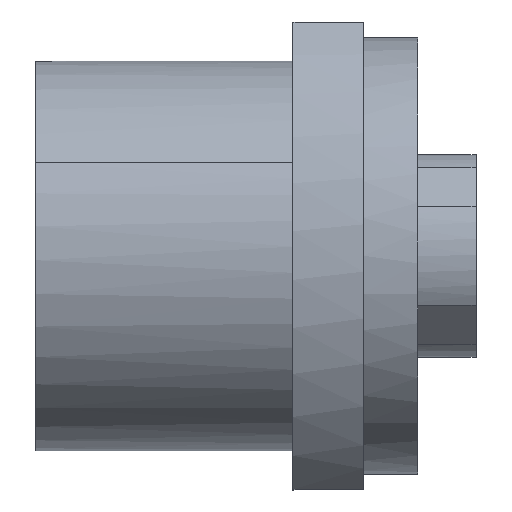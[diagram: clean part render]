
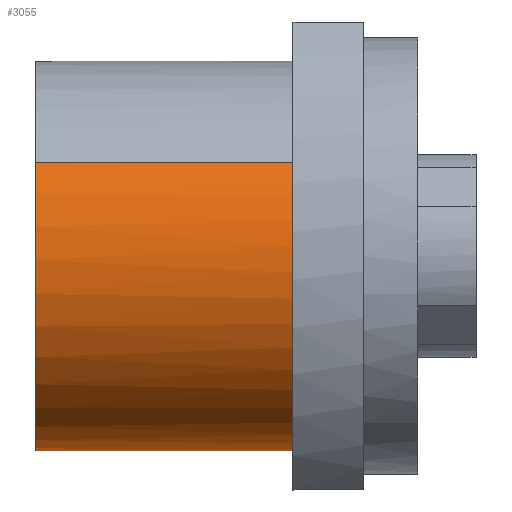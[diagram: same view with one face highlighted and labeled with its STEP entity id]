
A CAD part, top view. The second image highlights one B-rep face of the part: STEP entity #3055.
In plain terms, the highlighted cylindrical face has radius 50 mm (diameter 100 mm), a partial arc.
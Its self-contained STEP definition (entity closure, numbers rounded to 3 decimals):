
#1923=CARTESIAN_POINT('Vertex',(-18.,23.971,43.879)) ;
#1925=CARTESIAN_POINT('Vertex',(-18.,-23.971,-43.879)) ;
#1929=CARTESIAN_POINT('Control Point',(-18.,-23.971,-43.879)) ;
#1930=CARTESIAN_POINT('Control Point',(-18.,-28.227,-41.554)) ;
#1931=CARTESIAN_POINT('Control Point',(-18.,-32.201,-38.713)) ;
#1932=CARTESIAN_POINT('Control Point',(-18.,-35.81,-35.401)) ;
#1933=CARTESIAN_POINT('Control Point',(-18.,-42.153,-27.969)) ;
#1934=CARTESIAN_POINT('Control Point',(-18.,-46.536,-19.237)) ;
#1935=CARTESIAN_POINT('Control Point',(-18.,-48.184,-14.625)) ;
#1936=CARTESIAN_POINT('Control Point',(-18.,-50.331,-5.093)) ;
#1937=CARTESIAN_POINT('Control Point',(-18.,-50.137,4.675)) ;
#1938=CARTESIAN_POINT('Control Point',(-18.,-49.446,9.525)) ;
#1939=CARTESIAN_POINT('Control Point',(-18.,-46.901,18.958)) ;
#1940=CARTESIAN_POINT('Control Point',(-18.,-42.176,27.51)) ;
#1941=CARTESIAN_POINT('Control Point',(-18.,-39.304,31.477)) ;
#1942=CARTESIAN_POINT('Control Point',(-18.,-32.655,38.637)) ;
#1943=CARTESIAN_POINT('Control Point',(-18.,-24.488,43.999)) ;
#1944=CARTESIAN_POINT('Control Point',(-18.,-20.098,46.171)) ;
#1945=CARTESIAN_POINT('Control Point',(-18.,-10.878,49.405)) ;
#1946=CARTESIAN_POINT('Control Point',(-18.,-1.153,50.342)) ;
#1947=CARTESIAN_POINT('Control Point',(-18.,3.744,50.216)) ;
#1948=CARTESIAN_POINT('Control Point',(-18.,10.885,49.154)) ;
#1949=CARTESIAN_POINT('Control Point',(-18.,17.686,46.854)) ;
#1950=CARTESIAN_POINT('Control Point',(-18.,19.839,45.983)) ;
#1951=CARTESIAN_POINT('Control Point',(-18.,21.938,44.99)) ;
#1952=CARTESIAN_POINT('Control Point',(-18.,23.971,43.879)) ;
#3013=CARTESIAN_POINT('Line Origine',(-82.781,23.971,43.879)) ;
#3017=CARTESIAN_POINT('Vertex',(-84.,23.971,43.879)) ;
#3020=CARTESIAN_POINT('Line Origine',(-82.781,-23.971,-43.879)) ;
#3024=CARTESIAN_POINT('Vertex',(-84.,-23.971,-43.879)) ;
#3039=CARTESIAN_POINT('Axis2P3D Location',(-82.781,0.,0.)) ;
#3044=CARTESIAN_POINT('Axis2P3D Location',(-84.,0.,0.)) ;
#3014=DIRECTION('Vector Direction',(-1.,0.,0.)) ;
#3021=DIRECTION('Vector Direction',(-1.,0.,0.)) ;
#3040=DIRECTION('Axis2P3D Direction',(-1.,0.,0.)) ;
#3041=DIRECTION('Axis2P3D XDirection',(0.,-0.479,-0.878)) ;
#3045=DIRECTION('Axis2P3D Direction',(-1.,0.,0.)) ;
#3042=AXIS2_PLACEMENT_3D('Cylinder Axis2P3D',#3039,#3040,#3041) ;
#3046=AXIS2_PLACEMENT_3D('Circle Axis2P3D',#3044,#3045,$) ;
#3050=ORIENTED_EDGE('',*,*,#3026,.F.) ;
#3051=ORIENTED_EDGE('',*,*,#1953,.T.) ;
#3052=ORIENTED_EDGE('',*,*,#3019,.T.) ;
#3053=ORIENTED_EDGE('',*,*,#3048,.T.) ;
#3015=VECTOR('Line Direction',#3014,1.) ;
#3022=VECTOR('Line Direction',#3021,1.) ;
#3055=ADVANCED_FACE('FK35DFF(H)',(#3054),#3043,.T.) ;
#1928=B_SPLINE_CURVE_WITH_KNOTS('',5,(#1929,#1930,#1931,#1932,#1933,#1934,#1935,#1936,#1937,#1938,#1939,#1940,#1941,#1942,#1943,#1944,#1945,#1946,#1947,#1948,#1949,#1950,#1951,#1952),.UNSPECIFIED.,.F.,.U.,(6,3,3,3,3,3,3,6),(0.,34.293,68.585,102.878,137.17,171.463,205.755,222.142),.UNSPECIFIED.) ;
#3047=CIRCLE('generated circle',#3046,50.) ;
#3043=CYLINDRICAL_SURFACE('generated cylinder',#3042,50.) ;
#1953=EDGE_CURVE('',#1926,#1924,#1928,.T.) ;
#3019=EDGE_CURVE('',#1924,#3018,#3016,.T.) ;
#3026=EDGE_CURVE('',#1926,#3025,#3023,.T.) ;
#3048=EDGE_CURVE('',#3018,#3025,#3047,.F.) ;
#3049=EDGE_LOOP('',(#3050,#3051,#3052,#3053)) ;
#3054=FACE_OUTER_BOUND('',#3049,.T.) ;
#3016=LINE('Line',#3013,#3015) ;
#3023=LINE('Line',#3020,#3022) ;
#1924=VERTEX_POINT('',#1923) ;
#1926=VERTEX_POINT('',#1925) ;
#3018=VERTEX_POINT('',#3017) ;
#3025=VERTEX_POINT('',#3024) ;
